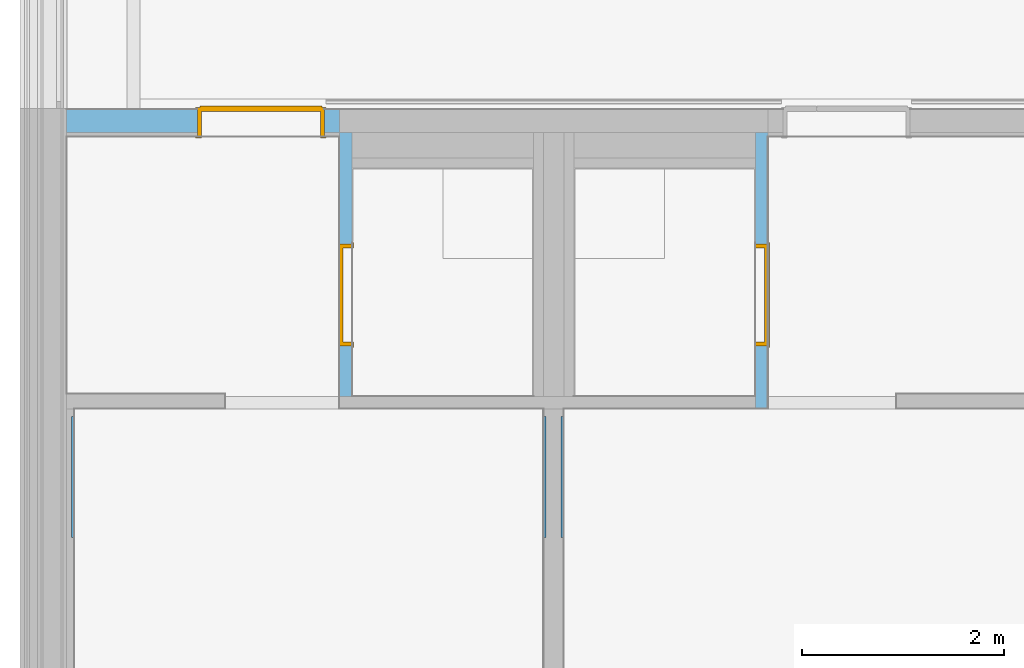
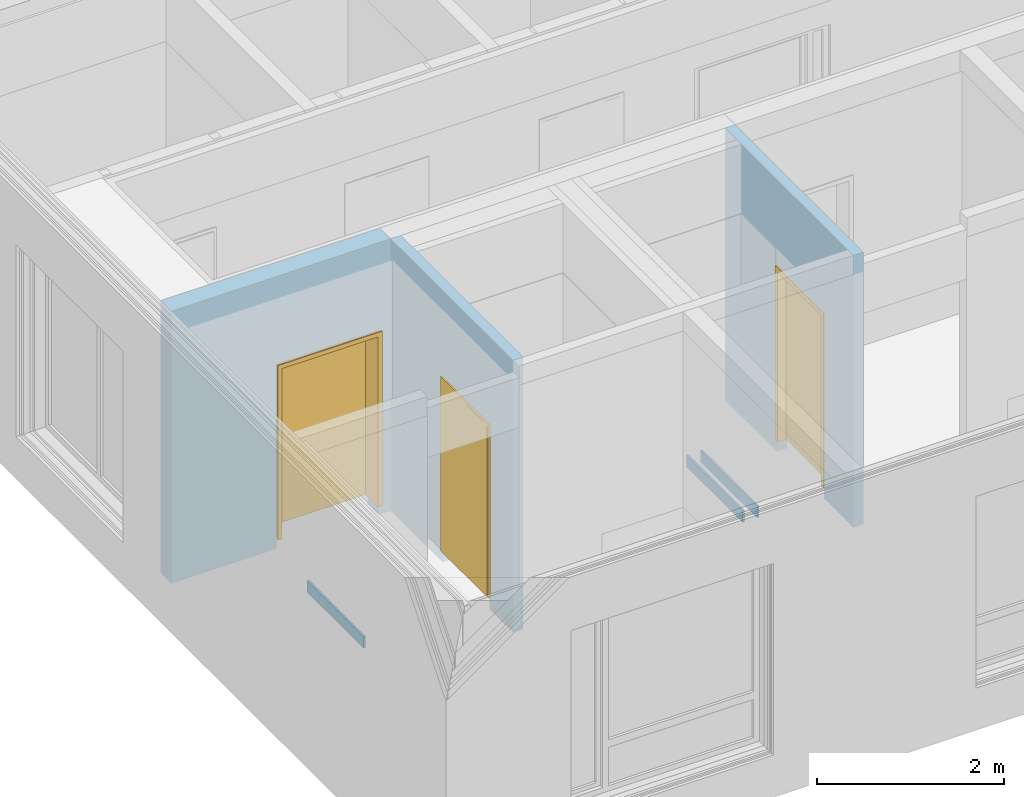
# One storey, part 59 of 222: 3 doors, 3 walls, 3 openings, plus 3 elements that do not belong to this part.
"""IFC4 building model written with IfcOpenShell, lengths in metres."""

from ifc_helpers import new_model, entity, si_unit, converted_unit, derived_unit, frame, frame_2d, origin, origin_with_axes, place, context, subcontext, project, spatial, polyline, rectangle, outline, extrude, faceted_brep, source, transform, mapped, material, type_object, element, fill, save


model = new_model("IFC4")

# Units and contexts
model_context = context("Model", 3, precision=1e-05, world=origin())
body_context = subcontext(model_context, "Body", "Model", "MODEL_VIEW")
ifc_project = project(units=[si_unit("LENGTHUNIT", "METRE"), si_unit("AREAUNIT", "SQUARE_METRE"), si_unit("VOLUMEUNIT", "CUBIC_METRE"), si_unit("MASSUNIT", "GRAM", prefix="KILO"), converted_unit("PLANEANGLEUNIT", "DEGREE", entity("IfcPlaneAngleMeasure", 0.0174532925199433), si_unit("PLANEANGLEUNIT", "RADIAN"), dimensions=[0, 0, 0, 0, 0, 0, 0]), derived_unit("THERMALTRANSMITTANCEUNIT", [(si_unit("POWERUNIT", "WATT"), 1), (si_unit("THERMODYNAMICTEMPERATUREUNIT", "KELVIN"), -1), (si_unit("LENGTHUNIT", "METRE"), -2)]), derived_unit("VOLUMETRICFLOWRATEUNIT", [(si_unit("LENGTHUNIT", "METRE"), 3), (converted_unit("TIMEUNIT", "hour", entity("IfcTimeMeasure", 3600.0), si_unit("TIMEUNIT", "SECOND"), dimensions=[0, 0, 1, 0, 0, 0, 0]), -1), (si_unit("LENGTHUNIT", "METRE"), -1)])], contexts=[model_context])

# Site, building, storey
site_placement = place(None, origin())
site = spatial("IfcSite", under=ifc_project, at=site_placement, Name="Psychiatrie Neubau Wunstorf", CompositionType="ELEMENT")
building_placement = place(site_placement, origin())
building = spatial("IfcBuilding", under=site, at=building_placement, Name="Neubau H2 Stationsgebäude", CompositionType="ELEMENT")
storey_placement = place(building_placement, frame((0.0, 0.0, 3.6)))
storey = spatial("IfcBuildingStorey", under=building, at=storey_placement, Name="H2 Ebene +1", CompositionType="ELEMENT", Elevation=3.6)

# Wall, opening, door
ifc_material_1 = material(Name="WI-LB")
wall_1_placement = place(storey_placement, frame((7.0, 4.09874963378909, 0.0), z_axis=(0.0, 0.0, 1.0), x_axis=(0.0, -1.0, 0.0)))
wall_1 = element("IfcWall", 1, at=wall_1_placement, inside=storey, material=ifc_material_1, context=body_context, shape_type="SweptSolid", body=[
    extrude(rectangle(XDim=2.73999999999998, YDim=0.125, at=frame_2d((1.36999999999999, 0.0625), x_axis=(1.0, 0.0))), origin_with_axes(), (0.0, 0.0, 1.0), 3.55),
])
opening_1_placement = place(wall_1_placement, frame((1.10499999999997, 0.0, 0.0), z_axis=(0.0, 1.0, 0.0), x_axis=(0.0, 0.0, 1.0)))
opening_1 = element("IfcOpeningElement", 2, at=opening_1_placement, cuts=wall_1, Name="Türöffnung", ObjectType="Opening", context=body_context, shape_type="SweptSolid", body=[
    extrude(outline(polyline([(2.41, 1.01), (2.41, 0.0), (0.0, 0.0), (0.0, 1.01), (2.41, 1.01)])), origin_with_axes(), (0.0, 0.0, 1.0), 0.125),
])
ifc_material_2 = material(Name="TI-1F-UZ-D-N")
door_type_1 = type_object("IfcDoorType", Name="SMT", OperationType="SINGLE_SWING_RIGHT", ParameterTakesPrecedence=False, PredefinedType="DOOR")
shared_shape_1 = source(origin_with_axes(), body_context, "Body", "Brep", [
    faceted_brep([(1.05, 0.0124999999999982, 0.0), (1.05, 0.112499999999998, 0.0), (1.01, 0.112499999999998, 0.0), (1.01, 0.0124999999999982, 0.0), (1.05, 0.112499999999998, 3.55), (1.05, 0.0124999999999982, 3.55), (1.01, 0.0124999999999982, 3.55), (1.01, 0.112499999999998, 3.55)], [[[0, 1, 2, 3]], [[4, 5, 6, 7]], [[1, 0, 5, 4]], [[2, 1, 4, 7]], [[3, 2, 7, 6]], [[0, 3, 6, 5]]], orient=[[False], [False], [False], [False], [False], [False]]),
    faceted_brep([(0.0, 0.0124999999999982, 0.0), (0.0, 0.112499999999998, 0.0), (-0.0399999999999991, 0.112499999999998, 0.0), (-0.0399999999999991, 0.0124999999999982, 0.0), (0.0, 0.112499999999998, 3.55), (0.0, 0.0124999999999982, 3.55), (-0.0399999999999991, 0.0124999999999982, 3.55), (-0.0399999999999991, 0.112499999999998, 3.55)], [[[0, 1, 2, 3]], [[4, 5, 6, 7]], [[1, 0, 5, 4]], [[2, 1, 4, 7]], [[3, 2, 7, 6]], [[0, 3, 6, 5]]], orient=[[False], [False], [False], [False], [False], [False]]),
    faceted_brep([(1.01, 0.0124999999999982, 2.41), (1.01, 0.112499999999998, 2.41), (0.0, 0.112499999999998, 2.41), (0.0, 0.0124999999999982, 2.41), (1.01, 0.112499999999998, 2.45), (1.01, 0.0124999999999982, 2.45), (0.0, 0.0124999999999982, 2.45), (0.0, 0.112499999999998, 2.45)], [[[0, 1, 2, 3]], [[4, 5, 6, 7]], [[1, 0, 5, 4]], [[2, 1, 4, 7]], [[3, 2, 7, 6]], [[0, 3, 6, 5]]], orient=[[False], [False], [False], [False], [False], [False]]),
])
shared_shape_2 = source(origin_with_axes(), body_context, "Body", "Brep", [
    faceted_brep([(0.0, -0.0150000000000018, 2.41), (0.0400000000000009, -0.0150000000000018, 2.41), (0.0400000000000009, -0.0150000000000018, 0.15), (0.0, -0.0150000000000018, 0.15), (0.0, 0.139999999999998, 0.15), (0.0400000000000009, 0.139999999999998, 0.15), (0.0400000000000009, 0.139999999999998, 2.41), (0.0, 0.139999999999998, 2.41)], [[[0, 1, 2, 3]], [[4, 5, 6, 7]], [[3, 4, 7, 0]], [[2, 5, 4, 3]], [[1, 6, 5, 2]], [[0, 7, 6, 1]]], orient=[[False], [False], [False], [False], [False], [False]]),
    faceted_brep([(0.0, -0.0150000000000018, 2.425), (0.0, -0.0150000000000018, 0.15), (-0.0149999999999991, -0.0150000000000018, 0.15), (-0.0149999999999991, -0.0150000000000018, 2.425), (0.0, 0.0, 0.15), (0.0, 0.0, 2.425), (-0.0149999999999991, 0.0, 2.425), (-0.0149999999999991, 0.0, 0.15)], [[[0, 1, 2, 3]], [[4, 5, 6, 7]], [[1, 0, 5, 4]], [[2, 1, 4, 7]], [[3, 2, 7, 6]], [[0, 3, 6, 5]]], orient=[[False], [False], [False], [False], [False], [False]]),
    faceted_brep([(0.0, 0.124999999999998, 2.425), (0.0, 0.124999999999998, 0.15), (-0.0149999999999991, 0.124999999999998, 0.15), (-0.0149999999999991, 0.124999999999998, 2.425), (0.0, 0.139999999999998, 0.15), (0.0, 0.139999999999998, 2.425), (-0.0149999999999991, 0.139999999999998, 2.425), (-0.0149999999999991, 0.139999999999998, 0.15)], [[[0, 1, 2, 3]], [[4, 5, 6, 7]], [[1, 0, 5, 4]], [[2, 1, 4, 7]], [[3, 2, 7, 6]], [[0, 3, 6, 5]]], orient=[[False], [False], [False], [False], [False], [False]]),
    faceted_brep([(0.970000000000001, -0.0150000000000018, 2.41), (1.01, -0.0150000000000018, 2.41), (1.01, -0.0150000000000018, 0.15), (0.970000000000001, -0.0150000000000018, 0.15), (0.970000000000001, 0.139999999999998, 0.15), (1.01, 0.139999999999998, 0.15), (1.01, 0.139999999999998, 2.41), (0.970000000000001, 0.139999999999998, 2.41)], [[[0, 1, 2, 3]], [[4, 5, 6, 7]], [[3, 4, 7, 0]], [[2, 5, 4, 3]], [[1, 6, 5, 2]], [[0, 7, 6, 1]]], orient=[[False], [False], [False], [False], [False], [False]]),
    faceted_brep([(1.01, -0.0150000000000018, 2.425), (1.025, -0.0150000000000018, 2.425), (1.025, -0.0150000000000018, 0.15), (1.01, -0.0150000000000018, 0.15), (1.01, 0.0, 0.15), (1.025, 0.0, 0.15), (1.025, 0.0, 2.425), (1.01, 0.0, 2.425)], [[[0, 1, 2, 3]], [[4, 5, 6, 7]], [[3, 4, 7, 0]], [[2, 5, 4, 3]], [[1, 6, 5, 2]], [[0, 7, 6, 1]]], orient=[[False], [False], [False], [False], [False], [False]]),
    faceted_brep([(1.01, 0.124999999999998, 2.425), (1.025, 0.124999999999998, 2.425), (1.025, 0.124999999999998, 0.15), (1.01, 0.124999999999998, 0.15), (1.01, 0.139999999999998, 0.15), (1.025, 0.139999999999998, 0.15), (1.025, 0.139999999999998, 2.425), (1.01, 0.139999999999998, 2.425)], [[[0, 1, 2, 3]], [[4, 5, 6, 7]], [[3, 4, 7, 0]], [[2, 5, 4, 3]], [[1, 6, 5, 2]], [[0, 7, 6, 1]]], orient=[[False], [False], [False], [False], [False], [False]]),
    faceted_brep([(0.0400000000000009, -0.0150000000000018, 2.41), (0.970000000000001, -0.0150000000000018, 2.41), (0.970000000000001, -0.0150000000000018, 2.37), (0.0400000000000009, -0.0150000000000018, 2.37), (0.0400000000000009, 0.139999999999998, 2.37), (0.970000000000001, 0.139999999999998, 2.37), (0.970000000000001, 0.139999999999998, 2.41), (0.0400000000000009, 0.139999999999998, 2.41)], [[[0, 1, 2, 3]], [[4, 5, 6, 7]], [[3, 4, 7, 0]], [[2, 5, 4, 3]], [[1, 6, 5, 2]], [[0, 7, 6, 1]]], orient=[[False], [False], [False], [False], [False], [False]]),
    faceted_brep([(0.0, -0.0150000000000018, 2.425), (1.01, -0.0150000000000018, 2.425), (1.01, -0.0150000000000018, 2.41), (0.0, -0.0150000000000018, 2.41), (0.0, 0.0, 2.41), (1.01, 0.0, 2.41), (1.01, 0.0, 2.425), (0.0, 0.0, 2.425)], [[[0, 1, 2, 3]], [[4, 5, 6, 7]], [[3, 4, 7, 0]], [[2, 5, 4, 3]], [[1, 6, 5, 2]], [[0, 7, 6, 1]]], orient=[[False], [False], [False], [False], [False], [False]]),
    faceted_brep([(0.0, 0.124999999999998, 2.425), (1.01, 0.124999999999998, 2.425), (1.01, 0.124999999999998, 2.41), (0.0, 0.124999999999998, 2.41), (0.0, 0.139999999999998, 2.41), (1.01, 0.139999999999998, 2.41), (1.01, 0.139999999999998, 2.425), (0.0, 0.139999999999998, 2.425)], [[[0, 1, 2, 3]], [[4, 5, 6, 7]], [[3, 4, 7, 0]], [[2, 5, 4, 3]], [[1, 6, 5, 2]], [[0, 7, 6, 1]]], orient=[[False], [False], [False], [False], [False], [False]]),
    faceted_brep([(0.0250000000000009, 0.0909999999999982, 2.385), (0.985, 0.0909999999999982, 2.385), (0.985, 0.0909999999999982, 0.15), (0.0250000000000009, 0.0909999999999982, 0.15), (0.0250000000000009, 0.140999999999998, 0.15), (0.985, 0.140999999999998, 0.15), (0.985, 0.140999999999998, 2.385), (0.0250000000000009, 0.140999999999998, 2.385)], [[[0, 1, 2, 3]], [[4, 5, 6, 7]], [[3, 4, 7, 0]], [[2, 5, 4, 3]], [[1, 6, 5, 2]], [[0, 7, 6, 1]]], orient=[[False], [False], [False], [False], [False], [False]]),
])
door_1_placement = place(opening_1_placement, frame((0.0, 0.0, 0.0), z_axis=(1.0, 0.0, 0.0), x_axis=(0.0, 1.0, 0.0)))
door_1 = element("IfcDoor", 3, at=door_1_placement, inside=storey, type_object=door_type_1, material=ifc_material_2, Name="SMT", OverallHeight=2.41, OverallWidth=1.01, context=body_context, shape_type="MappedRepresentation", body=[
    mapped(shared_shape_1, transform((0.0, 0.0, 0.0), x_axis=(1.0, 0.0, 0.0), y_axis=(0.0, 1.0, 0.0), z_axis=(0.0, 0.0, 1.0), scale=1.0)),
    mapped(shared_shape_2, transform((0.0, 0.0, 0.0), x_axis=(1.0, 0.0, 0.0), y_axis=(0.0, 1.0, 0.0), z_axis=(0.0, 0.0, 1.0), scale=1.0)),
])
fill(opening_1, door_1)

ifc_material_3 = material(Name="WI-LB")
wall_2_placement = place(storey_placement, frame((2.875, 4.0987496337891, 0.0), z_axis=(0.0, 0.0, 1.0), x_axis=(0.0, -1.0, 0.0)))
wall_2 = element("IfcWall", 4, at=wall_2_placement, inside=storey, material=ifc_material_3, context=body_context, shape_type="SweptSolid", body=[
    extrude(rectangle(XDim=2.61499999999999, YDim=0.125, at=frame_2d((1.3075, 0.0625), x_axis=(1.0, 0.0))), origin_with_axes(), (0.0, 0.0, 1.0), 3.55),
])
opening_2_placement = place(wall_2_placement, frame((2.11499999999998, 0.125, 0.0), z_axis=(0.0, -1.0, 0.0), x_axis=(0.0, 0.0, 1.0)))
opening_2 = element("IfcOpeningElement", 5, at=opening_2_placement, cuts=wall_2, Name="Türöffnung", ObjectType="Opening", context=body_context, shape_type="SweptSolid", body=[
    extrude(outline(polyline([(2.41, 1.01), (2.41, 0.0), (0.0, 0.0), (0.0, 1.01), (2.41, 1.01)])), origin_with_axes(), (0.0, 0.0, 1.0), 0.125),
])
ifc_material_4 = material(Name="TI-1F-UZ-D-N")
door_type_2 = type_object("IfcDoorType", Name="SMT", OperationType="SINGLE_SWING_RIGHT", ParameterTakesPrecedence=False, PredefinedType="DOOR")
shared_shape_3 = source(origin_with_axes(), body_context, "Body", "Brep", [
    faceted_brep([(-0.0400000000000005, 0.0125000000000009, 0.0), (0.0, 0.0125000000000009, 0.0), (0.0, 0.112500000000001, 0.0), (-0.0400000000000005, 0.112500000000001, 0.0), (-0.0400000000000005, 0.112500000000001, 3.55), (0.0, 0.112500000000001, 3.55), (0.0, 0.0125000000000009, 3.55), (-0.0400000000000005, 0.0125000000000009, 3.55)], [[[0, 1, 2, 3]], [[4, 5, 6, 7]], [[3, 4, 7, 0]], [[2, 5, 4, 3]], [[1, 6, 5, 2]], [[0, 7, 6, 1]]], orient=[[False], [False], [False], [False], [False], [False]]),
    faceted_brep([(1.01, 0.0125000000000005, 0.0), (1.05, 0.0125000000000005, 0.0), (1.05, 0.1125, 0.0), (1.01, 0.1125, 0.0), (1.01, 0.1125, 3.55), (1.05, 0.1125, 3.55), (1.05, 0.0125000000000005, 3.55), (1.01, 0.0125000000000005, 3.55)], [[[0, 1, 2, 3]], [[4, 5, 6, 7]], [[3, 4, 7, 0]], [[2, 5, 4, 3]], [[1, 6, 5, 2]], [[0, 7, 6, 1]]], orient=[[False], [False], [False], [False], [False], [False]]),
    faceted_brep([(0.0, 0.0125000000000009, 2.41), (1.01, 0.0125000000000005, 2.41), (1.01, 0.1125, 2.41), (0.0, 0.112500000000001, 2.41), (0.0, 0.112500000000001, 2.45), (1.01, 0.1125, 2.45), (1.01, 0.0125000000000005, 2.45), (0.0, 0.0125000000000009, 2.45)], [[[0, 1, 2, 3]], [[4, 5, 6, 7]], [[3, 4, 7, 0]], [[2, 5, 4, 3]], [[1, 6, 5, 2]], [[0, 7, 6, 1]]], orient=[[False], [False], [False], [False], [False], [False]]),
])
shared_shape_4 = source(origin_with_axes(), body_context, "Body", "Brep", [
    faceted_brep([(1.01, -0.0149999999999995, 2.41), (1.01, -0.0149999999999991, 0.15), (0.969999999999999, -0.0149999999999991, 0.15), (0.969999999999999, -0.0149999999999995, 2.41), (1.01, 0.140000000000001, 0.15), (1.01, 0.14, 2.41), (0.969999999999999, 0.14, 2.41), (0.969999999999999, 0.140000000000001, 0.15)], [[[0, 1, 2, 3]], [[4, 5, 6, 7]], [[1, 0, 5, 4]], [[2, 1, 4, 7]], [[3, 2, 7, 6]], [[0, 3, 6, 5]]], orient=[[False], [False], [False], [False], [False], [False]]),
    faceted_brep([(1.01, -0.0149999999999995, 2.425), (1.025, -0.0149999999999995, 2.425), (1.025, -0.0149999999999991, 0.15), (1.01, -0.0149999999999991, 0.15), (1.01, 0.0, 0.15), (1.025, 0.0, 0.15), (1.025, 0.0, 2.425), (1.01, 0.0, 2.425)], [[[0, 1, 2, 3]], [[4, 5, 6, 7]], [[3, 4, 7, 0]], [[2, 5, 4, 3]], [[1, 6, 5, 2]], [[0, 7, 6, 1]]], orient=[[False], [False], [False], [False], [False], [False]]),
    faceted_brep([(1.01, 0.125, 2.425), (1.025, 0.125, 2.425), (1.025, 0.125000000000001, 0.15), (1.01, 0.125000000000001, 0.15), (1.01, 0.140000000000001, 0.15), (1.025, 0.140000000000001, 0.15), (1.025, 0.14, 2.425), (1.01, 0.14, 2.425)], [[[0, 1, 2, 3]], [[4, 5, 6, 7]], [[3, 4, 7, 0]], [[2, 5, 4, 3]], [[1, 6, 5, 2]], [[0, 7, 6, 1]]], orient=[[False], [False], [False], [False], [False], [False]]),
    faceted_brep([(0.0399999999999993, -0.0149999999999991, 2.41), (0.0399999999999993, -0.0149999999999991, 0.15), (0.0, -0.0149999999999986, 0.15), (0.0, -0.0149999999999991, 2.41), (0.0399999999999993, 0.140000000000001, 0.15), (0.0399999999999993, 0.140000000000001, 2.41), (0.0, 0.140000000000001, 2.41), (0.0, 0.140000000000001, 0.15)], [[[0, 1, 2, 3]], [[4, 5, 6, 7]], [[1, 0, 5, 4]], [[2, 1, 4, 7]], [[3, 2, 7, 6]], [[0, 3, 6, 5]]], orient=[[False], [False], [False], [False], [False], [False]]),
    faceted_brep([(0.0, -0.0149999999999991, 2.425), (0.0, -0.0149999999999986, 0.15), (-0.0150000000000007, -0.0149999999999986, 0.15), (-0.0150000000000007, -0.0149999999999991, 2.425), (0.0, 0.0, 0.15), (0.0, 0.0, 2.425), (-0.0150000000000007, 0.0, 2.425), (-0.0150000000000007, 0.0, 0.15)], [[[0, 1, 2, 3]], [[4, 5, 6, 7]], [[1, 0, 5, 4]], [[2, 1, 4, 7]], [[3, 2, 7, 6]], [[0, 3, 6, 5]]], orient=[[False], [False], [False], [False], [False], [False]]),
    faceted_brep([(0.0, 0.125000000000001, 2.425), (0.0, 0.125000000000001, 0.15), (-0.0150000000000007, 0.125000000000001, 0.15), (-0.0150000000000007, 0.125000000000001, 2.425), (0.0, 0.140000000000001, 0.15), (0.0, 0.140000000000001, 2.425), (-0.0150000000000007, 0.140000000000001, 2.425), (-0.0150000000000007, 0.140000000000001, 0.15)], [[[0, 1, 2, 3]], [[4, 5, 6, 7]], [[1, 0, 5, 4]], [[2, 1, 4, 7]], [[3, 2, 7, 6]], [[0, 3, 6, 5]]], orient=[[False], [False], [False], [False], [False], [False]]),
    faceted_brep([(0.969999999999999, -0.0149999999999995, 2.41), (0.969999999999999, -0.0149999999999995, 2.37), (0.0399999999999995, -0.0149999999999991, 2.37), (0.0399999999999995, -0.0149999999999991, 2.41), (0.969999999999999, 0.14, 2.37), (0.969999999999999, 0.14, 2.41), (0.0399999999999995, 0.140000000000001, 2.41), (0.0399999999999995, 0.140000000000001, 2.37)], [[[0, 1, 2, 3]], [[4, 5, 6, 7]], [[1, 0, 5, 4]], [[2, 1, 4, 7]], [[3, 2, 7, 6]], [[0, 3, 6, 5]]], orient=[[False], [False], [False], [False], [False], [False]]),
    faceted_brep([(1.01, -0.0149999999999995, 2.425), (1.01, -0.0149999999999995, 2.41), (0.0, -0.0149999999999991, 2.41), (0.0, -0.0149999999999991, 2.425), (1.01, 0.0, 2.41), (1.01, 0.0, 2.425), (0.0, 0.0, 2.425), (0.0, 0.0, 2.41)], [[[0, 1, 2, 3]], [[4, 5, 6, 7]], [[1, 0, 5, 4]], [[2, 1, 4, 7]], [[3, 2, 7, 6]], [[0, 3, 6, 5]]], orient=[[False], [False], [False], [False], [False], [False]]),
    faceted_brep([(1.01, 0.125, 2.425), (1.01, 0.125, 2.41), (0.0, 0.125000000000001, 2.41), (0.0, 0.125000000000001, 2.425), (1.01, 0.14, 2.41), (1.01, 0.14, 2.425), (0.0, 0.140000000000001, 2.425), (0.0, 0.140000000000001, 2.41)], [[[0, 1, 2, 3]], [[4, 5, 6, 7]], [[1, 0, 5, 4]], [[2, 1, 4, 7]], [[3, 2, 7, 6]], [[0, 3, 6, 5]]], orient=[[False], [False], [False], [False], [False], [False]]),
    faceted_brep([(0.984999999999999, 0.0910000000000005, 2.385), (0.984999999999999, 0.0910000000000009, 0.15), (0.0249999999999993, 0.0910000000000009, 0.15), (0.0249999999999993, 0.0910000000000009, 2.385), (0.984999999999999, 0.141000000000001, 0.15), (0.984999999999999, 0.141, 2.385), (0.0249999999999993, 0.141000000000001, 2.385), (0.0249999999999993, 0.141000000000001, 0.15)], [[[0, 1, 2, 3]], [[4, 5, 6, 7]], [[1, 0, 5, 4]], [[2, 1, 4, 7]], [[3, 2, 7, 6]], [[0, 3, 6, 5]]], orient=[[False], [False], [False], [False], [False], [False]]),
])
door_2_placement = place(opening_2_placement, frame((0.0, 0.0, 0.0), z_axis=(1.0, 0.0, 0.0), x_axis=(0.0, 1.0, 0.0)))
door_2 = element("IfcDoor", 6, at=door_2_placement, inside=storey, type_object=door_type_2, material=ifc_material_4, Name="SMT", OverallHeight=2.41, OverallWidth=1.01, context=body_context, shape_type="MappedRepresentation", body=[
    mapped(shared_shape_3, transform((0.0, 0.0, 0.0), x_axis=(1.0, 0.0, 0.0), y_axis=(0.0, 1.0, 0.0), z_axis=(0.0, 0.0, 1.0), scale=1.0)),
    mapped(shared_shape_4, transform((0.0, 0.0, 0.0), x_axis=(1.0, 0.0, 0.0), y_axis=(0.0, 1.0, 0.0), z_axis=(0.0, 0.0, 1.0), scale=1.0)),
])
fill(opening_2, door_2)

ifc_material_5 = material(Name="WI-HW 60")
wall_3_placement = place(storey_placement, frame((2.875, 4.3307496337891, 0.0), z_axis=(0.0, 0.0, 1.0), x_axis=(-1.0, 1.00868173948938e-15, 0.0)))
wall_3 = element("IfcWall", 7, at=wall_3_placement, inside=storey, material=ifc_material_5, context=body_context, shape_type="SweptSolid", body=[
    extrude(rectangle(XDim=2.705, YDim=0.232, at=frame_2d((1.3525, 0.116), x_axis=(1.0, 0.0))), origin_with_axes(), (0.0, 0.0, 1.0), 3.55),
])
opening_3_placement = place(wall_3_placement, frame((0.15, 0.0, 0.0), z_axis=(-9.80058945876e-16, 1.0, 0.0), x_axis=(0.0, 0.0, 1.0)))
opening_3 = element("IfcOpeningElement", 8, at=opening_3_placement, cuts=wall_3, Name="Türöffnung", ObjectType="Opening", context=body_context, shape_type="SweptSolid", body=[
    extrude(outline(polyline([(2.41, 1.26), (2.41, 0.0), (0.0, 0.0), (0.0, 1.26), (2.41, 1.26)])), origin_with_axes(), (0.0, 0.0, 1.0), 0.232),
])
ifc_material_6 = material(Name="TI-2F-UZ-D")
door_type_3 = type_object("IfcDoorType", Name="SMT", OperationType="DOUBLE_DOOR_SINGLE_SWING", ParameterTakesPrecedence=False, PredefinedType="DOOR")
shared_shape_5 = source(origin_with_axes(), body_context, "Body", "Brep", [
    faceted_brep([(0.0, -0.0150000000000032, 2.41), (0.04, -0.0150000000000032, 2.41), (0.04, -0.0150000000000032, 0.15), (0.0, -0.0150000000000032, 0.15), (0.0, 0.286999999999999, 0.15), (0.0399999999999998, 0.286999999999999, 0.15), (0.0399999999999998, 0.286999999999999, 2.41), (0.0, 0.286999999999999, 2.41)], [[[0, 1, 2, 3]], [[4, 5, 6, 7]], [[3, 4, 7, 0]], [[2, 5, 4, 3]], [[1, 6, 5, 2]], [[0, 7, 6, 1]]], orient=[[False], [False], [False], [False], [False], [False]]),
    faceted_brep([(0.0, -0.0150000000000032, 2.425), (0.0, -0.0150000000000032, 0.15), (-0.015, -0.0150000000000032, 0.15), (-0.015, -0.0150000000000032, 2.425), (0.0, 0.0, 0.15), (0.0, 0.0, 2.425), (-0.015, 0.0, 2.425), (-0.015, 0.0, 0.15)], [[[0, 1, 2, 3]], [[4, 5, 6, 7]], [[1, 0, 5, 4]], [[2, 1, 4, 7]], [[3, 2, 7, 6]], [[0, 3, 6, 5]]], orient=[[False], [False], [False], [False], [False], [False]]),
    faceted_brep([(0.0, 0.271999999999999, 2.425), (0.0, 0.271999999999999, 0.15), (-0.0150000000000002, 0.271999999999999, 0.15), (-0.0150000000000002, 0.271999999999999, 2.425), (0.0, 0.286999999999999, 0.15), (0.0, 0.286999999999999, 2.425), (-0.0150000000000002, 0.286999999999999, 2.425), (-0.0150000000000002, 0.286999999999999, 0.15)], [[[0, 1, 2, 3]], [[4, 5, 6, 7]], [[1, 0, 5, 4]], [[2, 1, 4, 7]], [[3, 2, 7, 6]], [[0, 3, 6, 5]]], orient=[[False], [False], [False], [False], [False], [False]]),
    faceted_brep([(1.22, -0.0150000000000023, 2.41), (1.26, -0.0150000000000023, 2.41), (1.26, -0.0150000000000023, 0.15), (1.22, -0.0150000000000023, 0.15), (1.22, 0.287, 0.15), (1.26, 0.287, 0.15), (1.26, 0.287, 2.41), (1.22, 0.287, 2.41)], [[[0, 1, 2, 3]], [[4, 5, 6, 7]], [[3, 4, 7, 0]], [[2, 5, 4, 3]], [[1, 6, 5, 2]], [[0, 7, 6, 1]]], orient=[[False], [False], [False], [False], [False], [False]]),
    faceted_brep([(1.26, -0.0150000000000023, 2.425), (1.275, -0.0150000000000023, 2.425), (1.275, -0.0150000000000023, 0.15), (1.26, -0.0150000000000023, 0.15), (1.26, 0.0, 0.15), (1.275, 0.0, 0.15), (1.275, 0.0, 2.425), (1.26, 0.0, 2.425)], [[[0, 1, 2, 3]], [[4, 5, 6, 7]], [[3, 4, 7, 0]], [[2, 5, 4, 3]], [[1, 6, 5, 2]], [[0, 7, 6, 1]]], orient=[[False], [False], [False], [False], [False], [False]]),
    faceted_brep([(1.26, 0.271999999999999, 2.425), (1.275, 0.271999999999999, 2.425), (1.275, 0.272, 0.15), (1.26, 0.272, 0.15), (1.26, 0.287, 0.15), (1.275, 0.287, 0.15), (1.275, 0.287, 2.425), (1.26, 0.287, 2.425)], [[[0, 1, 2, 3]], [[4, 5, 6, 7]], [[3, 4, 7, 0]], [[2, 5, 4, 3]], [[1, 6, 5, 2]], [[0, 7, 6, 1]]], orient=[[False], [False], [False], [False], [False], [False]]),
    faceted_brep([(0.04, -0.0150000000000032, 2.41), (1.22, -0.0150000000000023, 2.41), (1.22, -0.0150000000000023, 2.37), (0.04, -0.0150000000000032, 2.37), (0.0399999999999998, 0.286999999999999, 2.37), (1.22, 0.287, 2.37), (1.22, 0.287, 2.41), (0.0399999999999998, 0.286999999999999, 2.41)], [[[0, 1, 2, 3]], [[4, 5, 6, 7]], [[3, 4, 7, 0]], [[2, 5, 4, 3]], [[1, 6, 5, 2]], [[0, 7, 6, 1]]], orient=[[False], [False], [False], [False], [False], [False]]),
    faceted_brep([(0.0, -0.0150000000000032, 2.425), (1.26, -0.0150000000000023, 2.425), (1.26, -0.0150000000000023, 2.41), (0.0, -0.0150000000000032, 2.41), (0.0, 0.0, 2.41), (1.26, 0.0, 2.41), (1.26, 0.0, 2.425), (0.0, 0.0, 2.425)], [[[0, 1, 2, 3]], [[4, 5, 6, 7]], [[3, 4, 7, 0]], [[2, 5, 4, 3]], [[1, 6, 5, 2]], [[0, 7, 6, 1]]], orient=[[False], [False], [False], [False], [False], [False]]),
    faceted_brep([(0.0, 0.271999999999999, 2.425), (1.26, 0.271999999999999, 2.425), (1.26, 0.271999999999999, 2.41), (0.0, 0.271999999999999, 2.41), (0.0, 0.286999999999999, 2.41), (1.26, 0.287, 2.41), (1.26, 0.287, 2.425), (0.0, 0.286999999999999, 2.425)], [[[0, 1, 2, 3]], [[4, 5, 6, 7]], [[3, 4, 7, 0]], [[2, 5, 4, 3]], [[1, 6, 5, 2]], [[0, 7, 6, 1]]], orient=[[False], [False], [False], [False], [False], [False]]),
    faceted_brep([(0.0249999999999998, 0.251999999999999, 2.385), (0.925, 0.251999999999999, 2.385), (0.925, 0.252, 0.15), (0.0249999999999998, 0.251999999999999, 0.15), (0.0249999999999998, 0.301999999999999, 0.15), (0.925, 0.302, 0.15), (0.925, 0.302, 2.385), (0.0249999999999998, 0.301999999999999, 2.385)], [[[0, 1, 2, 3]], [[4, 5, 6, 7]], [[3, 4, 7, 0]], [[2, 5, 4, 3]], [[1, 6, 5, 2]], [[0, 7, 6, 1]]], orient=[[False], [False], [False], [False], [False], [False]]),
    faceted_brep([(0.926, 0.251999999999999, 2.385), (1.235, 0.251999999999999, 2.385), (1.235, 0.252, 0.15), (0.926, 0.252, 0.15), (0.926, 0.302, 0.15), (1.235, 0.302, 0.15), (1.235, 0.302, 2.385), (0.926, 0.302, 2.385)], [[[0, 1, 2, 3]], [[4, 5, 6, 7]], [[3, 4, 7, 0]], [[2, 5, 4, 3]], [[1, 6, 5, 2]], [[0, 7, 6, 1]]], orient=[[False], [False], [False], [False], [False], [False]]),
])
door_3_placement = place(opening_3_placement, frame((0.0, 1.26, 0.271999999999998), z_axis=(1.0, 0.0, 0.0), x_axis=(0.0, -1.0, 6.93198398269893e-16)))
door_3 = element("IfcDoor", 9, at=door_3_placement, inside=storey, type_object=door_type_3, material=ifc_material_6, Name="SMT", OverallHeight=2.41, OverallWidth=1.26, context=body_context, shape_type="MappedRepresentation", body=[
    mapped(shared_shape_5, transform((0.0, 0.0, 0.0), x_axis=(1.0, 0.0, 0.0), y_axis=(0.0, 1.0, 0.0), z_axis=(0.0, 0.0, 1.0), scale=1.0)),
])
fill(opening_3, door_3)

# Walls
wall_4_placement = place(storey_placement, frame((0.219999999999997, 0.0854496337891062, 1.575)))
element("IfcWall", 10, at=wall_4_placement, inside=storey, Name="WV 1.1", context=body_context, shape_type="Brep", body=[
    faceted_brep([(0.025, 1.2, 0.0), (0.0, 1.2, 0.0), (0.0, 0.0, 0.0), (0.0250000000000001, 0.0, 0.0), (0.0, 1.2, 0.15), (0.025, 1.2, 0.15), (0.0250000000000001, 0.0, 0.15), (0.0, 0.0, 0.15)], [[[0, 1, 2, 3]], [[4, 5, 6, 7]], [[1, 0, 5, 4]], [[2, 1, 4, 7]], [[3, 2, 7, 6]], [[0, 3, 6, 5]]], orient=[[False], [False], [False], [False], [False], [False]]),
])
for number, where, name in (
    (11, (5.075, 0.0854496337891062, 1.575), "WV 1.1"),
    (12, (4.9, 0.0854496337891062, 1.575), "WV 1.1"),
):
    element("IfcWall", number, at=place(storey_placement, frame(where)), inside=storey, Name=name, context=body_context, shape_type="Brep", body=[
        faceted_brep([(0.025, 1.2, 0.0), (0.0, 1.2, 0.0), (0.0, 0.0, 0.0), (0.025, 0.0, 0.0), (0.0, 1.2, 0.15), (0.025, 1.2, 0.15), (0.025, 0.0, 0.15), (0.0, 0.0, 0.15)], [[[0, 1, 2, 3]], [[4, 5, 6, 7]], [[1, 0, 5, 4]], [[2, 1, 4, 7]], [[3, 2, 7, 6]], [[0, 3, 6, 5]]], orient=[[False], [False], [False], [False], [False], [False]]),
    ])

save(model, "model.ifc")
